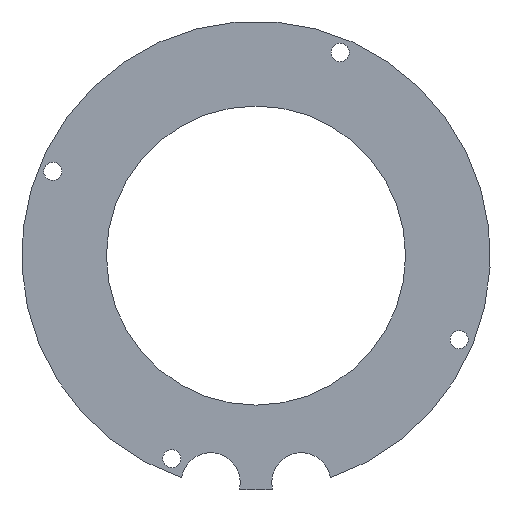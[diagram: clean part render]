
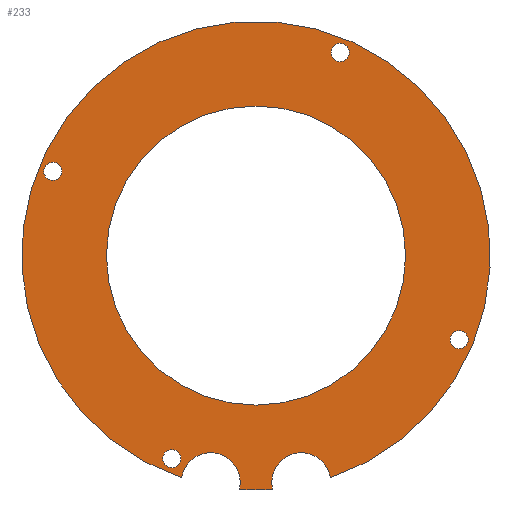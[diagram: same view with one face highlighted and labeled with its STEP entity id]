
A CAD part, front view. The second image highlights one B-rep face of the part: STEP entity #233.
In plain terms, the highlighted planar face has unit normal (0, -1, 0).
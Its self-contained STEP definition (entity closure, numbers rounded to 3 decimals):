
#2 = EDGE_LOOP ( 'NONE', ( #253, #321, #548, #28, #86 ) ) ;
#9 = DIRECTION ( 'NONE',  ( 0., 0., -1. ) ) ;
#11 = DIRECTION ( 'NONE',  ( 0., 0., 1. ) ) ;
#15 = CARTESIAN_POINT ( 'NONE',  ( 0., 0., 0. ) ) ;
#18 = DIRECTION ( 'NONE',  ( 0., 0., -1. ) ) ;
#25 = DIRECTION ( 'NONE',  ( -1., 0., 0. ) ) ;
#26 = FACE_BOUND ( 'NONE', #283, .T. ) ;
#28 = ORIENTED_EDGE ( 'NONE', *, *, #423, .F. ) ;
#36 = DIRECTION ( 'NONE',  ( 1., 0., 0. ) ) ;
#46 = FACE_BOUND ( 'NONE', #269, .T. ) ;
#49 = DIRECTION ( 'NONE',  ( 0., 1., 0. ) ) ;
#50 = AXIS2_PLACEMENT_3D ( 'NONE', #175, #272, #319 ) ;
#54 = CARTESIAN_POINT ( 'NONE',  ( 0., 0., 16.5 ) ) ;
#59 = DIRECTION ( 'NONE',  ( 0., 1., 0. ) ) ;
#60 = FACE_BOUND ( 'NONE', #91, .T. ) ;
#61 = VERTEX_POINT ( 'NONE', #614 ) ;
#65 = DIRECTION ( 'NONE',  ( 0., 1., 0. ) ) ;
#67 = CARTESIAN_POINT ( 'NONE',  ( 22.404, 0., -9.28 ) ) ;
#70 = CARTESIAN_POINT ( 'NONE',  ( 22.404, 0., -9.28 ) ) ;
#71 = EDGE_CURVE ( 'NONE', #61, #117, #266, .T. ) ;
#86 = ORIENTED_EDGE ( 'NONE', *, *, #325, .F. ) ;
#87 = CIRCLE ( 'NONE', #385, 16.5 ) ;
#89 = VERTEX_POINT ( 'NONE', #136 ) ;
#90 = CARTESIAN_POINT ( 'NONE',  ( -9.28, 0., -22.404 ) ) ;
#91 = EDGE_LOOP ( 'NONE', ( #223, #348 ) ) ;
#93 = CIRCLE ( 'NONE', #249, 1. ) ;
#99 = AXIS2_PLACEMENT_3D ( 'NONE', #332, #376, #437 ) ;
#100 = DIRECTION ( 'NONE',  ( 0., 0., -1. ) ) ;
#106 = DIRECTION ( 'NONE',  ( 0., 0., 1. ) ) ;
#108 = VERTEX_POINT ( 'NONE', #417 ) ;
#113 = DIRECTION ( 'NONE',  ( -1., 0., 0. ) ) ;
#114 = EDGE_CURVE ( 'NONE', #117, #61, #398, .T. ) ;
#117 = VERTEX_POINT ( 'NONE', #139 ) ;
#133 = CIRCLE ( 'NONE', #615, 1. ) ;
#136 = CARTESIAN_POINT ( 'NONE',  ( 1.846, 0., -25.784 ) ) ;
#137 = CIRCLE ( 'NONE', #394, 3.25 ) ;
#139 = CARTESIAN_POINT ( 'NONE',  ( -9.28, 0., -21.404 ) ) ;
#144 = CARTESIAN_POINT ( 'NONE',  ( 0., 0., 0. ) ) ;
#149 = DIRECTION ( 'NONE',  ( 0., 1., 0. ) ) ;
#150 = EDGE_CURVE ( 'NONE', #595, #267, #369, .T. ) ;
#158 = ORIENTED_EDGE ( 'NONE', *, *, #393, .T. ) ;
#160 = ORIENTED_EDGE ( 'NONE', *, *, #444, .T. ) ;
#161 = DIRECTION ( 'NONE',  ( 0., 1., 0. ) ) ;
#163 = VERTEX_POINT ( 'NONE', #182 ) ;
#164 = EDGE_LOOP ( 'NONE', ( #158, #160 ) ) ;
#165 = VERTEX_POINT ( 'NONE', #180 ) ;
#169 = CARTESIAN_POINT ( 'NONE',  ( 0., 0., 0. ) ) ;
#173 = CIRCLE ( 'NONE', #185, 1. ) ;
#175 = CARTESIAN_POINT ( 'NONE',  ( -9.28, 0., -22.404 ) ) ;
#180 = CARTESIAN_POINT ( 'NONE',  ( -21.404, 0., 9.28 ) ) ;
#182 = CARTESIAN_POINT ( 'NONE',  ( 0., 0., -25.85 ) ) ;
#184 = CARTESIAN_POINT ( 'NONE',  ( 21.404, 0., -9.28 ) ) ;
#185 = AXIS2_PLACEMENT_3D ( 'NONE', #296, #65, #586 ) ;
#187 = FACE_BOUND ( 'NONE', #261, .T. ) ;
#206 = DIRECTION ( 'NONE',  ( 0., 0., 1. ) ) ;
#209 = VERTEX_POINT ( 'NONE', #54 ) ;
#223 = ORIENTED_EDGE ( 'NONE', *, *, #459, .T. ) ;
#225 = EDGE_CURVE ( 'NONE', #267, #595, #408, .T. ) ;
#231 = CARTESIAN_POINT ( 'NONE',  ( 9.28, 0., 22.404 ) ) ;
#233 = ADVANCED_FACE ( 'NONE', ( #60, #187, #276, #46, #545, #26 ), #580, .F. ) ;
#246 = ORIENTED_EDGE ( 'NONE', *, *, #150, .T. ) ;
#249 = AXIS2_PLACEMENT_3D ( 'NONE', #70, #149, #25 ) ;
#253 = ORIENTED_EDGE ( 'NONE', *, *, #523, .F. ) ;
#258 = EDGE_CURVE ( 'NONE', #476, #209, #310, .T. ) ;
#261 = EDGE_LOOP ( 'NONE', ( #246, #528 ) ) ;
#266 = CIRCLE ( 'NONE', #507, 1. ) ;
#267 = VERTEX_POINT ( 'NONE', #431 ) ;
#269 = EDGE_LOOP ( 'NONE', ( #474, #405 ) ) ;
#271 = EDGE_CURVE ( 'NONE', #163, #379, #594, .T. ) ;
#272 = DIRECTION ( 'NONE',  ( 0., 1., 0. ) ) ;
#276 = FACE_BOUND ( 'NONE', #164, .T. ) ;
#278 = DIRECTION ( 'NONE',  ( 0., 1., 0. ) ) ;
#283 = EDGE_LOOP ( 'NONE', ( #455, #555 ) ) ;
#285 = DIRECTION ( 'NONE',  ( 0., -1., 0. ) ) ;
#291 = EDGE_CURVE ( 'NONE', #379, #438, #137, .T. ) ;
#296 = CARTESIAN_POINT ( 'NONE',  ( -22.404, 0., 9.28 ) ) ;
#304 = CARTESIAN_POINT ( 'NONE',  ( 0., 0., 0. ) ) ;
#310 = CIRCLE ( 'NONE', #517, 16.5 ) ;
#316 = AXIS2_PLACEMENT_3D ( 'NONE', #231, #278, #100 ) ;
#319 = DIRECTION ( 'NONE',  ( 0., 0., 1. ) ) ;
#320 = DIRECTION ( 'NONE',  ( 0., 1., 0. ) ) ;
#321 = ORIENTED_EDGE ( 'NONE', *, *, #291, .F. ) ;
#325 = EDGE_CURVE ( 'NONE', #356, #89, #558, .T. ) ;
#328 = DIRECTION ( 'NONE',  ( 0., 0., 1. ) ) ;
#332 = CARTESIAN_POINT ( 'NONE',  ( 5., 0., -25. ) ) ;
#333 = VERTEX_POINT ( 'NONE', #184 ) ;
#337 = CARTESIAN_POINT ( 'NONE',  ( 0., 0., 0. ) ) ;
#342 = CARTESIAN_POINT ( 'NONE',  ( -22.404, 0., 9.28 ) ) ;
#344 = CARTESIAN_POINT ( 'NONE',  ( -1.846, 0., -25.784 ) ) ;
#348 = ORIENTED_EDGE ( 'NONE', *, *, #374, .T. ) ;
#351 = AXIS2_PLACEMENT_3D ( 'NONE', #304, #161, #206 ) ;
#356 = VERTEX_POINT ( 'NONE', #429 ) ;
#357 = DIRECTION ( 'NONE',  ( 0., 1., 0. ) ) ;
#360 = AXIS2_PLACEMENT_3D ( 'NONE', #375, #49, #9 ) ;
#369 = CIRCLE ( 'NONE', #360, 1. ) ;
#374 = EDGE_CURVE ( 'NONE', #504, #165, #173, .T. ) ;
#375 = CARTESIAN_POINT ( 'NONE',  ( 9.28, 0., 22.404 ) ) ;
#376 = DIRECTION ( 'NONE',  ( 0., -1., 0. ) ) ;
#379 = VERTEX_POINT ( 'NONE', #344 ) ;
#385 = AXIS2_PLACEMENT_3D ( 'NONE', #169, #463, #409 ) ;
#389 = DIRECTION ( 'NONE',  ( 0., 1., 0. ) ) ;
#393 = EDGE_CURVE ( 'NONE', #333, #108, #93, .T. ) ;
#394 = AXIS2_PLACEMENT_3D ( 'NONE', #527, #285, #18 ) ;
#397 = CARTESIAN_POINT ( 'NONE',  ( 9.28, 0., 21.404 ) ) ;
#398 = CIRCLE ( 'NONE', #50, 1. ) ;
#405 = ORIENTED_EDGE ( 'NONE', *, *, #71, .T. ) ;
#408 = CIRCLE ( 'NONE', #316, 1. ) ;
#409 = DIRECTION ( 'NONE',  ( 0., 0., 1. ) ) ;
#417 = CARTESIAN_POINT ( 'NONE',  ( 23.404, 0., -9.28 ) ) ;
#423 = EDGE_CURVE ( 'NONE', #89, #163, #460, .T. ) ;
#424 = DIRECTION ( 'NONE',  ( 0., 0., 1. ) ) ;
#425 = CIRCLE ( 'NONE', #351, 25.85 ) ;
#429 = CARTESIAN_POINT ( 'NONE',  ( 8.213, 0., -24.511 ) ) ;
#430 = DIRECTION ( 'NONE',  ( 0., 1., 0. ) ) ;
#431 = CARTESIAN_POINT ( 'NONE',  ( 9.28, 0., 23.404 ) ) ;
#437 = DIRECTION ( 'NONE',  ( 0., 0., -1. ) ) ;
#438 = VERTEX_POINT ( 'NONE', #591 ) ;
#440 = CARTESIAN_POINT ( 'NONE',  ( 0., 0., 0. ) ) ;
#443 = DIRECTION ( 'NONE',  ( 0., 0., 1. ) ) ;
#444 = EDGE_CURVE ( 'NONE', #108, #333, #133, .T. ) ;
#455 = ORIENTED_EDGE ( 'NONE', *, *, #258, .T. ) ;
#459 = EDGE_CURVE ( 'NONE', #165, #504, #573, .T. ) ;
#460 = CIRCLE ( 'NONE', #562, 25.85 ) ;
#463 = DIRECTION ( 'NONE',  ( 0., 1., 0. ) ) ;
#474 = ORIENTED_EDGE ( 'NONE', *, *, #114, .T. ) ;
#476 = VERTEX_POINT ( 'NONE', #503 ) ;
#481 = DIRECTION ( 'NONE',  ( 0., 1., 0. ) ) ;
#500 = AXIS2_PLACEMENT_3D ( 'NONE', #144, #481, #11 ) ;
#503 = CARTESIAN_POINT ( 'NONE',  ( 0., 0., -16.5 ) ) ;
#504 = VERTEX_POINT ( 'NONE', #552 ) ;
#507 = AXIS2_PLACEMENT_3D ( 'NONE', #90, #320, #424 ) ;
#517 = AXIS2_PLACEMENT_3D ( 'NONE', #337, #59, #106 ) ;
#518 = AXIS2_PLACEMENT_3D ( 'NONE', #342, #357, #36 ) ;
#523 = EDGE_CURVE ( 'NONE', #438, #356, #425, .T. ) ;
#527 = CARTESIAN_POINT ( 'NONE',  ( -5., 0., -25. ) ) ;
#528 = ORIENTED_EDGE ( 'NONE', *, *, #225, .T. ) ;
#545 = FACE_OUTER_BOUND ( 'NONE', #2, .T. ) ;
#548 = ORIENTED_EDGE ( 'NONE', *, *, #271, .F. ) ;
#552 = CARTESIAN_POINT ( 'NONE',  ( -23.404, 0., 9.28 ) ) ;
#555 = ORIENTED_EDGE ( 'NONE', *, *, #610, .T. ) ;
#558 = CIRCLE ( 'NONE', #99, 3.25 ) ;
#562 = AXIS2_PLACEMENT_3D ( 'NONE', #440, #590, #443 ) ;
#573 = CIRCLE ( 'NONE', #518, 1. ) ;
#580 = PLANE ( 'NONE',  #593 ) ;
#586 = DIRECTION ( 'NONE',  ( 1., 0., 0. ) ) ;
#590 = DIRECTION ( 'NONE',  ( 0., 1., 0. ) ) ;
#591 = CARTESIAN_POINT ( 'NONE',  ( -8.213, 0., -24.511 ) ) ;
#593 = AXIS2_PLACEMENT_3D ( 'NONE', #15, #430, #328 ) ;
#594 = CIRCLE ( 'NONE', #500, 25.85 ) ;
#595 = VERTEX_POINT ( 'NONE', #397 ) ;
#610 = EDGE_CURVE ( 'NONE', #209, #476, #87, .T. ) ;
#614 = CARTESIAN_POINT ( 'NONE',  ( -9.28, 0., -23.404 ) ) ;
#615 = AXIS2_PLACEMENT_3D ( 'NONE', #67, #389, #113 ) ;
